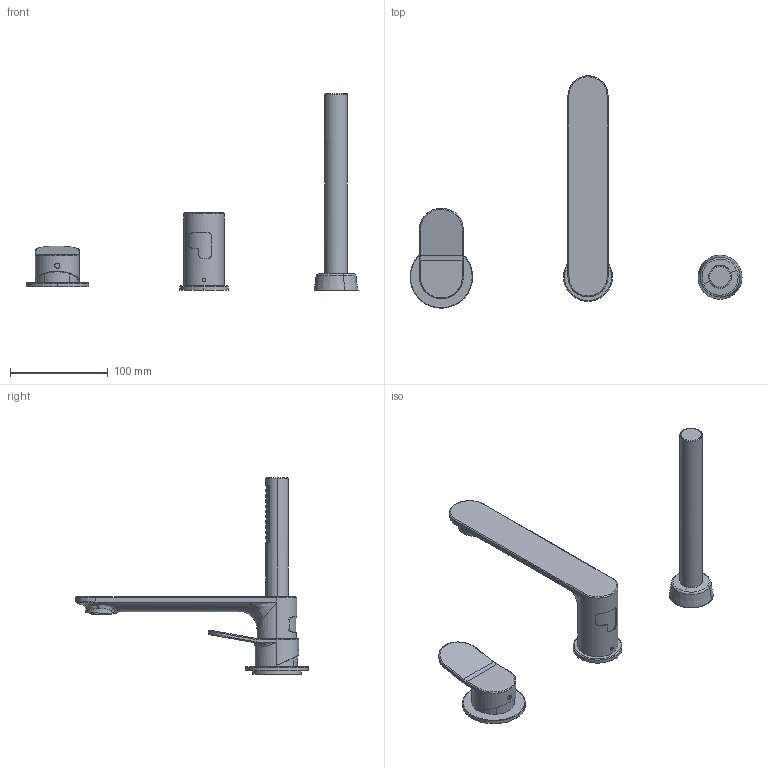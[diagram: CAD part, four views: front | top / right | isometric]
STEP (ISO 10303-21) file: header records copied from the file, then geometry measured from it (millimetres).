
FILE_DESCRIPTION (( 'STEP AP214' ), '1' );
FILE_NAME ('82139310 x architetti.STEP', '2025-01-15T09:43:32', ( '' ), ( '' ), 'SwSTEP 2.0', 'SolidWorks 2020', '' );
FILE_SCHEMA (( 'AUTOMOTIVE_DESIGN' ));
Length unit declared in the file: millimetre
Products named in the file (1): 82139310 x architetti
Bounding box: 339.47 x 237.5 x 201.3 mm (x, y, z)
Volume: 336564.9 mm3; surface area: 80640 mm2
Topology: 3 solids, 5 shells, 1452 faces, 3425 edges, 2238 vertices
Faces by surface type: plane 1118, cylinder 210, bspline 116, cone 6, torus 2
Entity records: 63655 total; most frequent: CARTESIAN_POINT 17703, ORIENTED_EDGE 6842, DIRECTION 5955, EDGE_CURVE 3421, LINE 2815, VECTOR 2815, VERTEX_POINT 2238, EDGE_LOOP 1715
